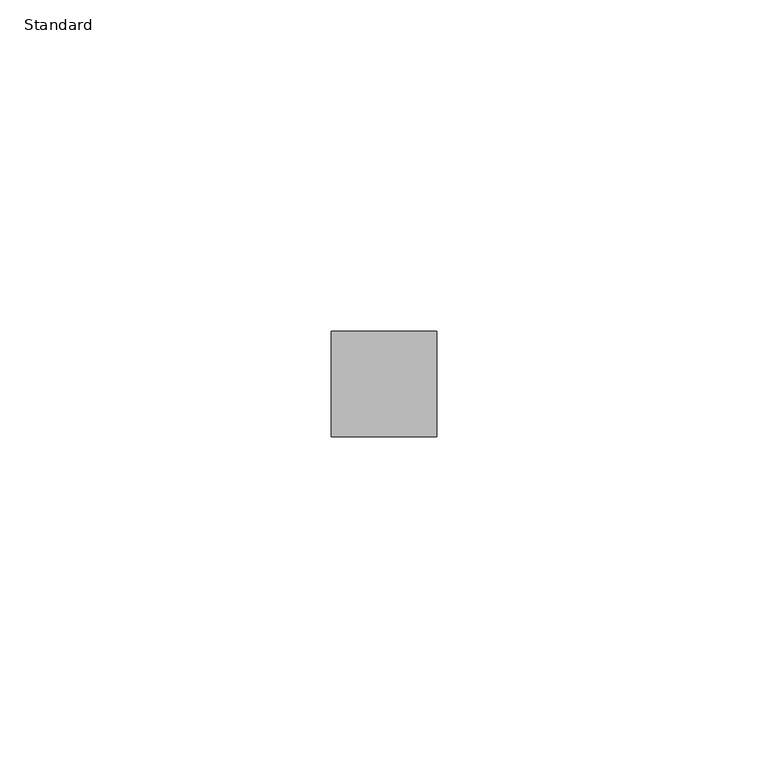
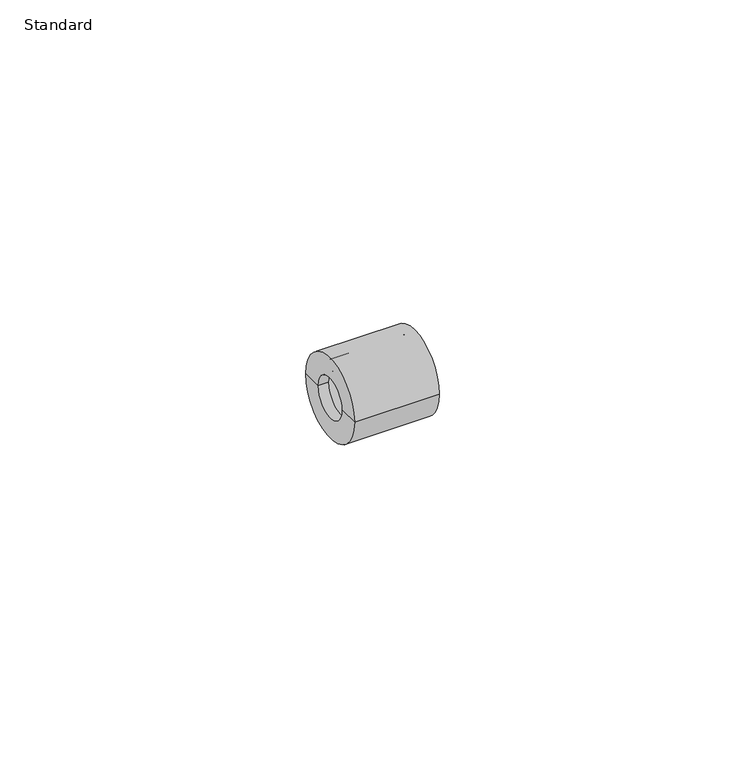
"""IFC4 building model written with IfcOpenShell, lengths in millimetres: pipe fitting geometry, Durapipe_PipeFitting_PVC_ReducingBush : Standard."""

from ifc_helpers import new_model, si_unit, frame, origin, place, context, project, spatial, polyline, circle_curve, source, transform, mapped, element, save
from ifc_brep_helpers import plane_surface, cylinder_surface, revolved_surface, advanced_brep


def standard_3ad8c861(model_context):
    return source(origin(), model_context, "Body", "AdvancedBrep", [
        advanced_brep(
        [(-2.0, -4.0, 0.0), (-2.0, 4.0, 0.0), (-2.0, 8.0, 0.0), (-2.0, -8.0, 0.0), (0.0, -4.0, 0.0), (0.0, 4.0, 0.0), (0.0, -6.0, 0.0), (0.0, 6.0, 0.0), (14.0, -6.0, 0.0), (14.0, 6.0, 0.0), (14.0, -8.0, 0.0), (14.0, 8.0, 0.0)],
        [
            (0, 1, circle_curve(frame((-2.0, 0.0, 0.0), z_axis=(1.0, 0.0, 0.0), x_axis=(0.0, 1.0, 0.0)), 4.0)),
            (1, 2),
            (2, 3, circle_curve(frame((-2.0, 0.0, 0.0), z_axis=(-1.0, 0.0, 0.0), x_axis=(0.0, 1.0, 0.0)), 8.0)),
            (3, 0),
            (1, 0, circle_curve(frame((-2.0, 0.0, 0.0), z_axis=(1.0, 0.0, 0.0), x_axis=(0.0, 1.0, 0.0)), 4.0)),
            (3, 2, circle_curve(frame((-2.0, 0.0, 0.0), z_axis=(-1.0, 0.0, 0.0), x_axis=(0.0, 1.0, 0.0)), 8.0)),
            (4, 5, circle_curve(frame((0.0, 0.0, 0.0), z_axis=(1.0, 0.0, 0.0), x_axis=(0.0, 1.0, 0.0)), 4.0)),
            (5, 1),
            (0, 4),
            (5, 4, circle_curve(frame((0.0, 0.0, 0.0), z_axis=(1.0, 0.0, 0.0), x_axis=(0.0, 1.0, 0.0)), 4.0)),
            (6, 7, circle_curve(frame((0.0, 0.0, 0.0), z_axis=(1.0, 0.0, 0.0), x_axis=(0.0, 1.0, 0.0)), 6.0)),
            (7, 5),
            (4, 6),
            (7, 6, circle_curve(frame((0.0, 0.0, 0.0), z_axis=(1.0, 0.0, 0.0), x_axis=(0.0, 1.0, 0.0)), 6.0)),
            (8, 9, circle_curve(frame((14.0, 0.0, 0.0), z_axis=(1.0, 0.0, 0.0), x_axis=(0.0, 1.0, 0.0)), 6.0)),
            (9, 7),
            (6, 8),
            (9, 8, circle_curve(frame((14.0, 0.0, 0.0), z_axis=(1.0, 0.0, 0.0), x_axis=(0.0, 1.0, 0.0)), 6.0)),
            (10, 11, circle_curve(frame((14.0, 0.0, 0.0), z_axis=(1.0, 0.0, 0.0), x_axis=(0.0, 1.0, 0.0)), 8.0)),
            (11, 9),
            (8, 10),
            (11, 10, circle_curve(frame((14.0, 0.0, 0.0), z_axis=(1.0, 0.0, 0.0), x_axis=(0.0, 1.0, 0.0)), 8.0)),
            (2, 11),
            (10, 3),
        ],
        [
            plane_surface(frame((-2.0, 0.0, 0.0), z_axis=(-1.0, 0.0, 0.0), x_axis=(0.0, 1.0, 0.0))),
            revolved_surface(polyline([(-2.0, 4.0, 0.0), (0.0, 4.0, 0.0)]), (2000.0, 0.0, 0.0), (-1.0, 0.0, 0.0)),
            plane_surface(frame((0.0, 0.0, 0.0), z_axis=(1.0, 0.0, 0.0), x_axis=(0.0, 1.0, 0.0))),
            revolved_surface(polyline([(0.0, 6.0, 0.0), (14.0, 6.0, 0.0)]), (2000.0, 0.0, 0.0), (-1.0, 0.0, 0.0)),
            plane_surface(frame((14.0, 0.0, 0.0), z_axis=(1.0, 0.0, 0.0), x_axis=(0.0, 1.0, 0.0))),
            cylinder_surface(frame((2000.0, 0.0, 0.0), z_axis=(-1.0, 0.0, 0.0), x_axis=(0.0, 1.0, 0.0)), 8.0),
        ],
        [
            (0, [[1, 2, 3, 4]]),
            (0, [[5, -4, 6, -2]]),
            (1, [[7, 8, -1, 9]]),
            (1, [[10, -9, -5, -8]]),
            (2, [[11, 12, -7, 13]]),
            (2, [[14, -13, -10, -12]]),
            (3, [[15, 16, -11, 17]]),
            (3, [[18, -17, -14, -16]]),
            (4, [[19, 20, -15, 21]]),
            (4, [[22, -21, -18, -20]]),
            (5, [[-3, 23, -19, 24]]),
            (5, [[-6, -24, -22, -23]]),
        ],
    ),
    ])


if __name__ == "__main__":
    model = new_model("IFC4")
    model_context = context("Model", 3, world=origin())
    ifc_project = project(units=[si_unit("LENGTHUNIT", "METRE", prefix="MILLI")], contexts=[model_context])
    site = spatial("IfcSite", under=ifc_project)
    building = spatial("IfcBuilding", under=site)
    placement = place(None, origin())
    standard_shape = standard_3ad8c861(model_context)
    element("IfcPipeFitting", 1, ObjectType="Durapipe_PipeFitting_PVC_ReducingBush : Standard", at=placement, inside=building, context=model_context, shape_type="MappedRepresentation", body=[
        mapped(standard_shape, transform((0.0, 0.0, 0.0), x_axis=(1.0, 0.0, 0.0), y_axis=(0.0, 1.0, 0.0), z_axis=(0.0, 0.0, 1.0))),
    ])
    save(model, "model.ifc")
